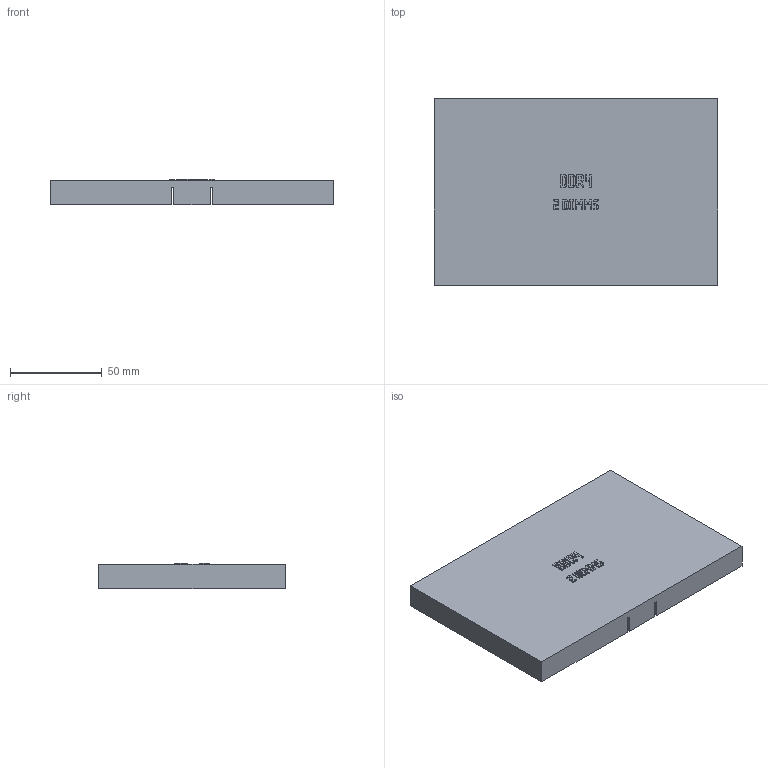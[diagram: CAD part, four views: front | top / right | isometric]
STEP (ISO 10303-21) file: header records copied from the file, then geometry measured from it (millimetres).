
FILE_DESCRIPTION(('Open CASCADE Model'),'2;1');
FILE_NAME('Open CASCADE Shape Model','2026-11-03T10:20:08',('Author'),( 'Open CASCADE'),'Open CASCADE STEP processor 8.0','build123d', 'Unknown');
FILE_SCHEMA(('AUTOMOTIVE_DESIGN { 1 0 10303 214 1 1 1 1 }'));
Products named in the file (1): COMPOUND
Bounding box: 154.7 x 101.7 x 13.85 mm (x, y, z)
Volume: 42958 mm3; surface area: 44223.1 mm2
Topology: 1 solids, 1 shells, 1074 faces, 3168 edges, 2112 vertices
Faces by surface type: plane 1074
Entity records: 76162 total; most frequent: CARTESIAN_POINT 12755, DIRECTION 11590, LINE 9440, VECTOR 9440, ORIENTED_EDGE 6336, PCURVE 6336, DEFINITIONAL_REPRESENTATION 6336, EDGE_CURVE 3168
